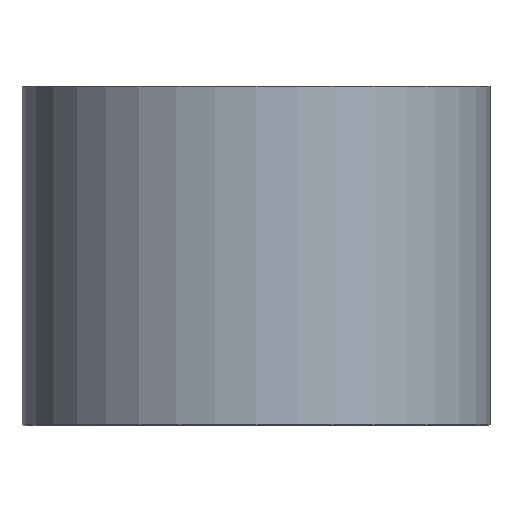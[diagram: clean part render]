
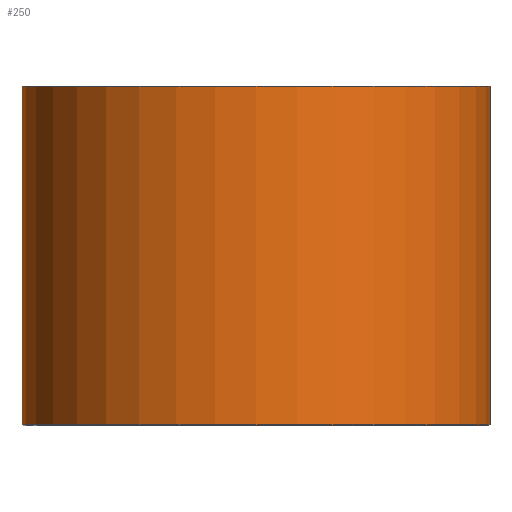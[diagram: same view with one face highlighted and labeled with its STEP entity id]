
A CAD part, front view. The second image highlights one B-rep face of the part: STEP entity #250.
In plain terms, the highlighted cylindrical face has radius 41 mm (diameter 82 mm), a partial arc.
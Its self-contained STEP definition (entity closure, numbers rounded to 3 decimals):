
#98 = AXIS2_PLACEMENT_3D ( 'NONE', #965, #298, #1082 ) ;
#213 = VECTOR ( 'NONE', #497, 1000. ) ;
#245 = CARTESIAN_POINT ( 'NONE',  ( -41., 0., 59.5 ) ) ;
#250 = ADVANCED_FACE ( 'NONE', ( #783 ), #541, .T. ) ;
#267 = EDGE_CURVE ( 'NONE', #1262, #738, #1076, .T. ) ;
#287 = CARTESIAN_POINT ( 'NONE',  ( 0., 0., 59.5 ) ) ;
#298 = DIRECTION ( 'NONE',  ( 0., 0., 1. ) ) ;
#313 = LINE ( 'NONE', #1366, #561 ) ;
#358 = ORIENTED_EDGE ( 'NONE', *, *, #753, .T. ) ;
#362 = DIRECTION ( 'NONE',  ( 0., 0., 1. ) ) ;
#423 = CIRCLE ( 'NONE', #667, 41. ) ;
#428 = ORIENTED_EDGE ( 'NONE', *, *, #1307, .F. ) ;
#447 = LINE ( 'NONE', #596, #213 ) ;
#497 = DIRECTION ( 'NONE',  ( 0., 0., -1. ) ) ;
#512 = VERTEX_POINT ( 'NONE', #1337 ) ;
#541 = CYLINDRICAL_SURFACE ( 'NONE', #1313, 41. ) ;
#561 = VECTOR ( 'NONE', #575, 1000. ) ;
#565 = CARTESIAN_POINT ( 'NONE',  ( 41., 0., 0.2 ) ) ;
#575 = DIRECTION ( 'NONE',  ( 0., 0., -1. ) ) ;
#596 = CARTESIAN_POINT ( 'NONE',  ( -41., 0., 59.5 ) ) ;
#607 = EDGE_CURVE ( 'NONE', #512, #1207, #423, .T. ) ;
#667 = AXIS2_PLACEMENT_3D ( 'NONE', #1022, #362, #1140 ) ;
#689 = ORIENTED_EDGE ( 'NONE', *, *, #607, .T. ) ;
#738 = VERTEX_POINT ( 'NONE', #937 ) ;
#743 = ORIENTED_EDGE ( 'NONE', *, *, #267, .F. ) ;
#746 = EDGE_LOOP ( 'NONE', ( #428, #743, #358, #689 ) ) ;
#753 = EDGE_CURVE ( 'NONE', #1262, #512, #447, .T. ) ;
#783 = FACE_OUTER_BOUND ( 'NONE', #746, .T. ) ;
#838 = DIRECTION ( 'NONE',  ( 0., 0., -1. ) ) ;
#937 = CARTESIAN_POINT ( 'NONE',  ( 41., 0., 59.5 ) ) ;
#965 = CARTESIAN_POINT ( 'NONE',  ( 0., 0., 59.5 ) ) ;
#1022 = CARTESIAN_POINT ( 'NONE',  ( 0., 0., 0.2 ) ) ;
#1073 = DIRECTION ( 'NONE',  ( -1., 0., 0. ) ) ;
#1076 = CIRCLE ( 'NONE', #98, 41. ) ;
#1082 = DIRECTION ( 'NONE',  ( 1., 0., 0. ) ) ;
#1140 = DIRECTION ( 'NONE',  ( 1., 0., 0. ) ) ;
#1207 = VERTEX_POINT ( 'NONE', #565 ) ;
#1262 = VERTEX_POINT ( 'NONE', #245 ) ;
#1307 = EDGE_CURVE ( 'NONE', #738, #1207, #313, .T. ) ;
#1313 = AXIS2_PLACEMENT_3D ( 'NONE', #287, #838, #1073 ) ;
#1337 = CARTESIAN_POINT ( 'NONE',  ( -41., 0., 0.2 ) ) ;
#1366 = CARTESIAN_POINT ( 'NONE',  ( 41., 0., 59.5 ) ) ;
